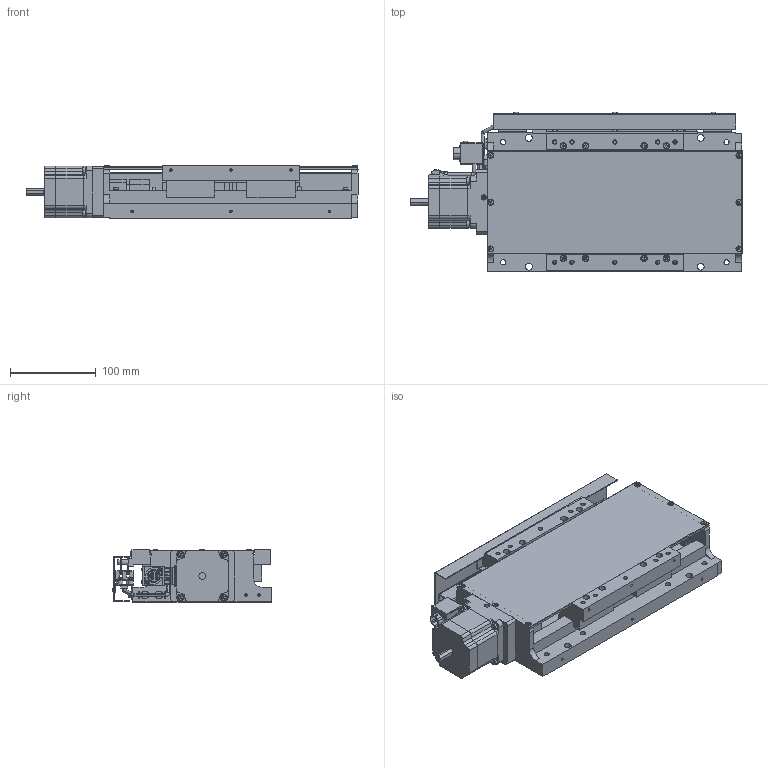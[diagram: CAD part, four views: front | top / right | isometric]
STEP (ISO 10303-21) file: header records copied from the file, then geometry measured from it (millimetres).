
FILE_DESCRIPTION (( 'STEP AP203' ), '1' );
FILE_NAME ('XA16F-L2101-R.STEP', '2019-02-20T08:03:12', ( '' ), ( '' ), 'SwSTEP 2.0', 'SolidWorks 2018', '' );
FILE_SCHEMA (( 'CONFIG_CONTROL_DESIGN' ));
Length unit declared in the file: millimetre
Products named in the file (3): XA16F-L2101-R; table; base
Assembly tree (2 placements, depth 2):
  XA16F-L2101-R
    table
    base
Bounding box: 386.5 x 185.89 x 62 mm (x, y, z)
Volume: 1817551.1 mm3; surface area: 434736 mm2
Topology: 2 solids, 6 shells, 2594 faces, 6376 edges, 3934 vertices
Faces by surface type: plane 1520, cylinder 650, cone 336, torus 36, sphere 32, bspline 20
Entity records: 76808 total; most frequent: CARTESIAN_POINT 14302, DIRECTION 13449, ORIENTED_EDGE 12548, EDGE_CURVE 6274, AXIS2_PLACEMENT_3D 4733, VECTOR 3983, LINE 3983, VERTEX_POINT 3932
